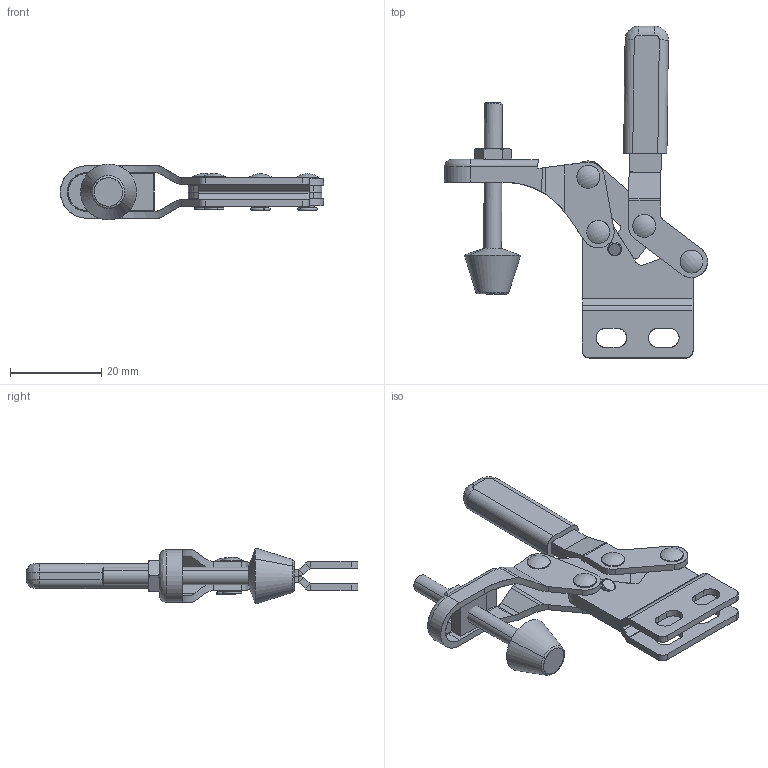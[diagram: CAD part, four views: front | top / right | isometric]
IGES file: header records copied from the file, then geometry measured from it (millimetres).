
Start section: SolidWorks IGES file using analytic representation for surfaces
Global section: file name: \\BARTOP_SV6\share\SOLIDWORKS\工具事業部\坂入用\Toggle clamp\ISK-09S0\ISK-09S0.IGS; native system: SolidWorks 2015; preprocessor: SolidWorks 2015; author: SOLID02; date: 150708.094145; units: millimetre
Bounding box: 57.73 x 72.84 x 12.29 mm (x, y, z)
Surface area: 10410.4 mm2 (no closed solid volume)
Topology: 0 solids, 0 shells, 387 faces, 4956 edges, 4955 vertices
Faces by surface type: bspline 197, revolution 190
